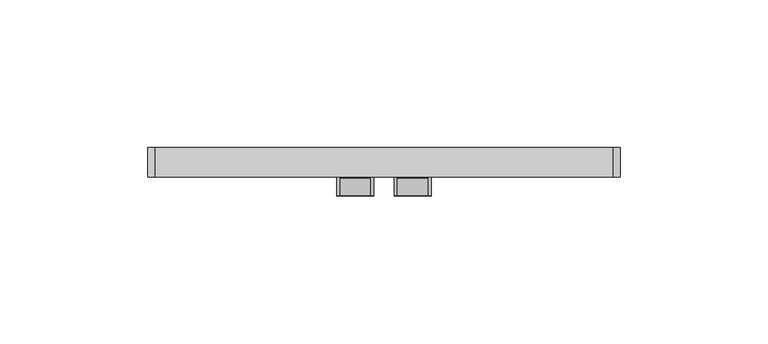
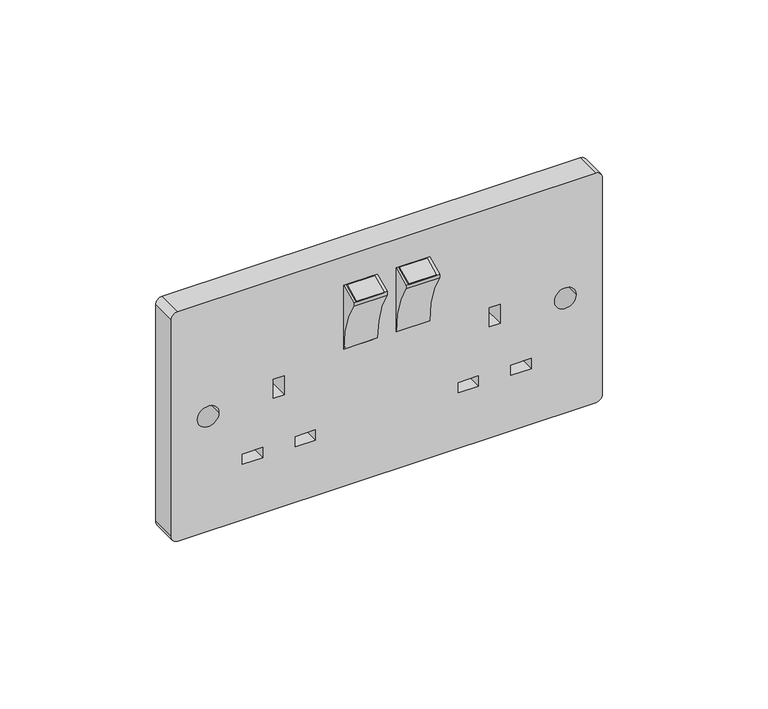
"""IFC4 building model written with IfcOpenShell, lengths in millimetres: flow terminal geometry, BIMHealth-Electrical_Double_Socket-Non_Wall_Mounted_Realistic-LOD2A-v1 : BIMHealth-Electrical_Double_Socket-Non_Wall_Mounted_Realistic-LOD2A-v1."""

from ifc_helpers import new_model, si_unit, point, frame, frame_2d, origin, place, context, project, spatial, polyline, circle_curve, trimmed, segment, composite_curve, outline, extrude, source, transform, mapped, element, save


def flow_terminal_962c3642(model_context):
    return source(origin(), model_context, "Body", "SweptSolid", [
        extrude(outline(polyline([(0.0, 6.6069309), (10.2857159, 6.6069309), (10.2857159, 0.0), (0.0, 0.0), (0.0, 6.6069309)])), frame((-14.8926088, -15.8571543, 525.0765635), z_axis=(0.0, -0.42261826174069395, 0.9063077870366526), x_axis=(1.0, 0.0, 0.0)), (0.0, 0.0, 1.0), 1.0),
        extrude(outline(polyline([(0.0, 6.6069309), (10.2857159, 6.6069309), (10.2857159, 0.0), (0.0, 0.0), (0.0, 6.6069309)])), frame((4.5275149, -15.8571543, 525.0765635), z_axis=(0.0, -0.42261826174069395, 0.9063077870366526), x_axis=(1.0, 0.0, 0.0)), (0.0, 0.0, 1.0), 1.0),
        extrude(outline(composite_curve([segment(polyline([(-10.0, 528.7685686), (-10.0, 503.7685686)]), True, "CONTINUOUS"), segment(trimmed(circle_curve(frame_2d((-46.7694965, 503.7685686)), 36.7694965), [point((-10.0, 503.7685686))], [point((-16.3259043, 524.3885485))], True, "CARTESIAN"), True, "CONTINUOUS"), segment(trimmed(circle_curve(frame_2d((-14.4146112, 525.1036497)), 2.0406889), [point((-16.3259043, 524.3885485))], [point((-16.3259043, 525.818751))], False, "CARTESIAN"), True, "CONTINUOUS"), segment(polyline([(-16.3259043, 525.818751), (-10.0, 528.7685686)]), True, "CONTINUOUS")], self_intersect=False)), frame((3.4600618, 0.0, 0.0), z_axis=(1.0, 0.0, 0.0), x_axis=(0.0, 1.0, 0.0)), (0.0, 0.0, 1.0), 12.5),
        extrude(outline(composite_curve([segment(polyline([(-10.0, 528.7685686), (-10.0, 503.7685686)]), True, "CONTINUOUS"), segment(trimmed(circle_curve(frame_2d((-46.7694965, 503.7685686)), 36.7694965), [point((-10.0, 503.7685686))], [point((-16.3259043, 524.3885485))], True, "CARTESIAN"), True, "CONTINUOUS"), segment(trimmed(circle_curve(frame_2d((-14.4146112, 525.1036497)), 2.0406889), [point((-16.3259043, 524.3885485))], [point((-16.3259043, 525.818751))], False, "CARTESIAN"), True, "CONTINUOUS"), segment(polyline([(-16.3259043, 525.818751), (-10.0, 528.7685686)]), True, "CONTINUOUS")], self_intersect=False)), frame((-15.9600618, 0.0, 0.0), z_axis=(1.0, 0.0, 0.0), x_axis=(0.0, 1.0, 0.0)), (0.0, 0.0, 1.0), 12.5),
        extrude(outline(composite_curve([segment(trimmed(circle_curve(frame_2d((537.5, -77.5)), 2.5), [point((540.0, -77.5))], [point((537.5, -80.0))], False, "CARTESIAN"), True, "CONTINUOUS"), segment(polyline([(537.5, -80.0), (452.5, -80.0)]), True, "CONTINUOUS"), segment(trimmed(circle_curve(frame_2d((452.5, -77.5)), 2.5), [point((452.5, -80.0))], [point((450.0, -77.5))], False, "CARTESIAN"), True, "CONTINUOUS"), segment(polyline([(450.0, -77.5), (450.0, 77.5)]), True, "CONTINUOUS"), segment(trimmed(circle_curve(frame_2d((452.5, 77.5)), 2.5), [point((450.0, 77.5))], [point((452.5, 80.0))], False, "CARTESIAN"), True, "CONTINUOUS"), segment(polyline([(452.5, 80.0), (537.5, 80.0)]), True, "CONTINUOUS"), segment(trimmed(circle_curve(frame_2d((537.5, 77.5)), 2.5), [point((537.5, 80.0))], [point((540.0, 77.5))], False, "CARTESIAN"), True, "CONTINUOUS"), segment(polyline([(540.0, 77.5), (540.0, -77.5)]), True, "CONTINUOUS")], self_intersect=False), holes=[composite_curve([segment(trimmed(circle_curve(frame_2d((495.0, 66.25)), 4.0), [point((495.0, 70.25))], [point((495.0, 62.25))], True, "CARTESIAN"), True, "CONTINUOUS"), segment(trimmed(circle_curve(frame_2d((495.0, 66.25)), 4.0), [point((495.0, 62.25))], [point((495.0, 70.25))], True, "CARTESIAN"), True, "CONTINUOUS")], self_intersect=False), composite_curve([segment(trimmed(circle_curve(frame_2d((495.0, -66.25)), 4.0), [point((495.0, -70.25))], [point((495.0, -62.25))], True, "CARTESIAN"), True, "CONTINUOUS"), segment(trimmed(circle_curve(frame_2d((495.0, -66.25)), 4.0), [point((495.0, -62.25))], [point((495.0, -70.25))], True, "CARTESIAN"), True, "CONTINUOUS")], self_intersect=False), polyline([(501.1172186, 38.0365659), (501.1172186, 42.0365659), (493.6172186, 42.0365659), (493.6172186, 38.0365659), (501.1172186, 38.0365659)]), polyline([(475.7422186, 53.5365659), (471.7422186, 53.5365659), (471.7422186, 46.0365659), (475.7422186, 46.0365659), (475.7422186, 53.5365659)]), polyline([(475.7422186, 26.5365659), (475.7422186, 34.0365659), (471.7422186, 34.0365659), (471.7422186, 26.5365659), (475.7422186, 26.5365659)]), polyline([(501.1172186, -38.0365659), (493.6172186, -38.0365659), (493.6172186, -42.0365659), (501.1172186, -42.0365659), (501.1172186, -38.0365659)]), polyline([(475.7422186, -53.5365659), (475.7422186, -46.0365659), (471.7422186, -46.0365659), (471.7422186, -53.5365659), (475.7422186, -53.5365659)]), polyline([(475.7422186, -26.5365659), (471.7422186, -26.5365659), (471.7422186, -34.0365659), (475.7422186, -34.0365659), (475.7422186, -26.5365659)]), composite_curve([segment(polyline([(528.7685686, 5.4600618), (528.7685686, 13.9600618)]), True, "CONTINUOUS"), segment(trimmed(circle_curve(frame_2d((526.7685686, 13.9600618)), 2.0), [point((528.7685686, 13.9600618))], [point((526.7685686, 15.9600618))], True, "CARTESIAN"), True, "CONTINUOUS"), segment(polyline([(526.7685686, 15.9600618), (505.7685686, 15.9600618)]), True, "CONTINUOUS"), segment(trimmed(circle_curve(frame_2d((505.7685686, 13.9600618)), 2.0), [point((505.7685686, 15.9600618))], [point((503.7685686, 13.9600618))], True, "CARTESIAN"), True, "CONTINUOUS"), segment(polyline([(503.7685686, 13.9600618), (503.7685686, 5.4600618)]), True, "CONTINUOUS"), segment(trimmed(circle_curve(frame_2d((505.7685686, 5.4600618)), 2.0), [point((503.7685686, 5.4600618))], [point((505.7685686, 3.4600618))], True, "CARTESIAN"), True, "CONTINUOUS"), segment(polyline([(505.7685686, 3.4600618), (526.7685686, 3.4600618)]), True, "CONTINUOUS"), segment(trimmed(circle_curve(frame_2d((526.7685686, 5.4600618)), 2.0), [point((526.7685686, 3.4600618))], [point((528.7685686, 5.4600618))], True, "CARTESIAN"), True, "CONTINUOUS")], self_intersect=False), composite_curve([segment(trimmed(circle_curve(frame_2d((526.7685686, -5.4600618)), 2.0), [point((528.7685686, -5.4600618))], [point((526.7685686, -3.4600618))], True, "CARTESIAN"), True, "CONTINUOUS"), segment(polyline([(526.7685686, -3.4600618), (505.7685686, -3.4600618)]), True, "CONTINUOUS"), segment(trimmed(circle_curve(frame_2d((505.7685686, -5.4600618)), 2.0), [point((505.7685686, -3.4600618))], [point((503.7685686, -5.4600618))], True, "CARTESIAN"), True, "CONTINUOUS"), segment(polyline([(503.7685686, -5.4600618), (503.7685686, -13.9600618)]), True, "CONTINUOUS"), segment(trimmed(circle_curve(frame_2d((505.7685686, -13.9600618)), 2.0), [point((503.7685686, -13.9600618))], [point((505.7685686, -15.9600618))], True, "CARTESIAN"), True, "CONTINUOUS"), segment(polyline([(505.7685686, -15.9600618), (526.7685686, -15.9600618)]), True, "CONTINUOUS"), segment(trimmed(circle_curve(frame_2d((526.7685686, -13.9600618)), 2.0), [point((526.7685686, -15.9600618))], [point((528.7685686, -13.9600618))], True, "CARTESIAN"), True, "CONTINUOUS"), segment(polyline([(528.7685686, -13.9600618), (528.7685686, -5.4600618)]), True, "CONTINUOUS")], self_intersect=False)]), frame((0.0, -10.0, 0.0), z_axis=(0.0, 1.0, 0.0), x_axis=(0.0, 0.0, 1.0)), (0.0, 0.0, 1.0), 10.0),
    ])


if __name__ == "__main__":
    model = new_model("IFC4")
    model_context = context("Model", 3, world=origin())
    ifc_project = project(units=[si_unit("LENGTHUNIT", "METRE", prefix="MILLI")], contexts=[model_context])
    site = spatial("IfcSite", under=ifc_project)
    building = spatial("IfcBuilding", under=site)
    placement = place(None, origin())
    flow_terminal_shape = flow_terminal_962c3642(model_context)
    element("IfcFlowTerminal", 1, ObjectType="BIMHealth-Electrical_Double_Socket-Non_Wall_Mounted_Realistic-LOD2A-v1 : BIMHealth-Electrical_Double_Socket-Non_Wall_Mounted_Realistic-LOD2A-v1", at=placement, inside=building, context=model_context, shape_type="MappedRepresentation", body=[
        mapped(flow_terminal_shape, transform((0.0, 0.0, 0.0), x_axis=(1.0, 0.0, 0.0), y_axis=(0.0, 1.0, 0.0), z_axis=(0.0, 0.0, 1.0))),
    ])
    save(model, "model.ifc")
